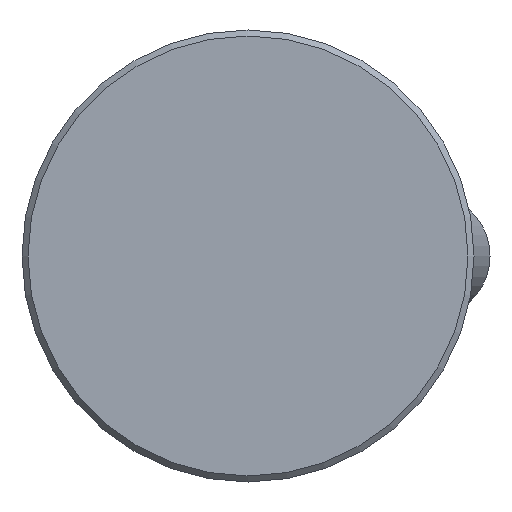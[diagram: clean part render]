
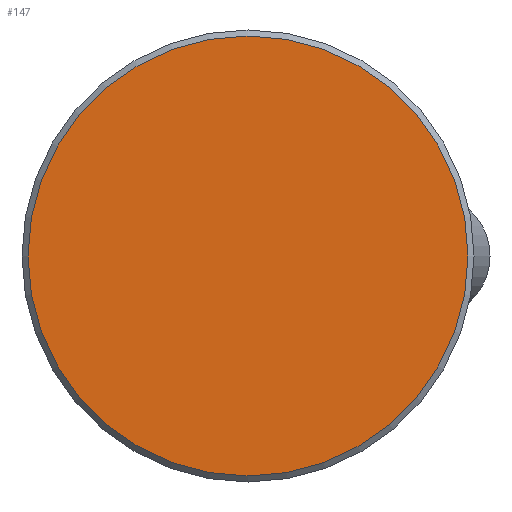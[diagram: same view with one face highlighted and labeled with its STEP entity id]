
A CAD part, front view. The second image highlights one B-rep face of the part: STEP entity #147.
In plain terms, the highlighted planar face has unit normal (0, -1, 0).
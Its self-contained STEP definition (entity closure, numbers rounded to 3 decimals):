
#147 = ADVANCED_FACE( '', ( #305 ), #306, .F. );
#305 = FACE_OUTER_BOUND( '', #505, .T. );
#306 = PLANE( '', #506 );
#505 = EDGE_LOOP( '', ( #706 ) );
#506 = AXIS2_PLACEMENT_3D( '', #707, #708, #709 );
#706 = ORIENTED_EDGE( '', *, *, #1121, .T. );
#707 = CARTESIAN_POINT( '', ( 29.2, 0., 0. ) );
#708 = DIRECTION( '', ( 0., 1., 0. ) );
#709 = DIRECTION( '', ( 0., 0., 1. ) );
#1121 = EDGE_CURVE( '', #1289, #1289, #1290, .T. );
#1289 = VERTEX_POINT( '', #1521 );
#1290 = CIRCLE( '', #1522, 29.2 );
#1521 = CARTESIAN_POINT( '', ( 0., 0., -29.2 ) );
#1522 = AXIS2_PLACEMENT_3D( '', #2030, #2031, #2032 );
#2030 = CARTESIAN_POINT( '', ( 0., 0., 0. ) );
#2031 = DIRECTION( '', ( 0., -1., 0. ) );
#2032 = DIRECTION( '', ( 0., 0., -1. ) );
